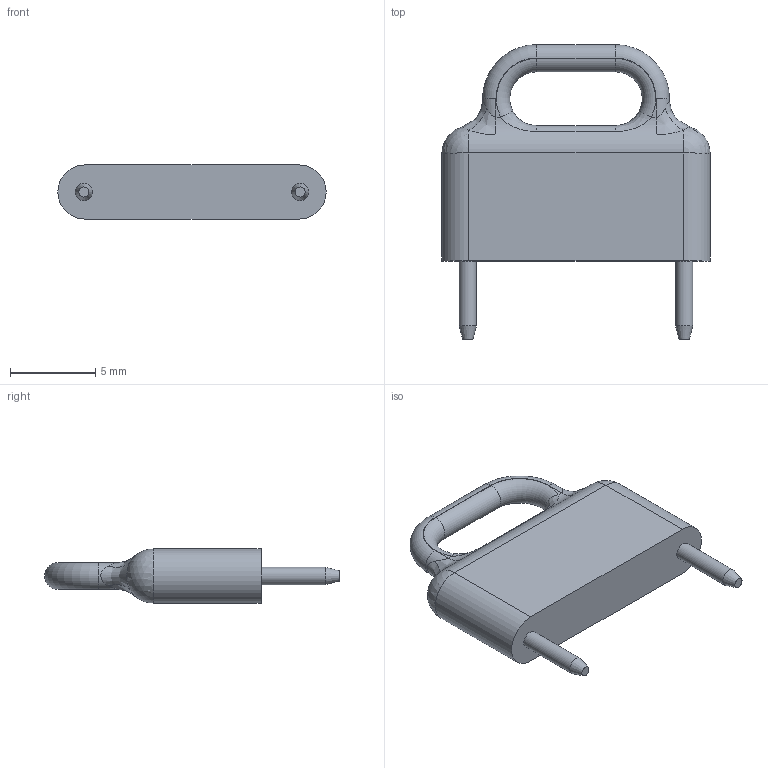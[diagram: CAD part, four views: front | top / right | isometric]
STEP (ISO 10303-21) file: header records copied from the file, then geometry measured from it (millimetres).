
FILE_DESCRIPTION(/* description */ (''),/* implementation_level */ '2;1');
FILE_NAME(/* name */ '\\Snap1\dwgs\Customer 3D Models\461\461-3771-02 Customer model.stp',/* time_stamp */ '2016-12-21T14:33:50+00:00',/* author */ ('paulk'),/* organization */ (''),/* preprocessor_version */ 'ST-DEVELOPER v15.2',/* originating_system */ 'Autodesk Inventor 2014',/* authorisation */ '');
FILE_SCHEMA (('CONFIG_CONTROL_DESIGN'));
Length unit declared in the file: millimetre
Products named in the file (1): 461-3771-02 Customer model
Bounding box: 15.75 x 17.3 x 3.17 mm (x, y, z)
Volume: 403.6 mm3; surface area: 449.9 mm2
Topology: 1 solids, 1 shells, 42 faces, 100 edges, 56 vertices
Faces by surface type: cylinder 16, bspline 10, plane 8, torus 4, cone 2, sphere 2
Full cylindrical faces by diameter (mm): 1.016 x2
Entity records: 1511 total; most frequent: CARTESIAN_POINT 539, ORIENTED_EDGE 184, DIRECTION 182, EDGE_CURVE 92, AXIS2_PLACEMENT_3D 77, VERTEX_POINT 56, EDGE_LOOP 48, CIRCLE 44
